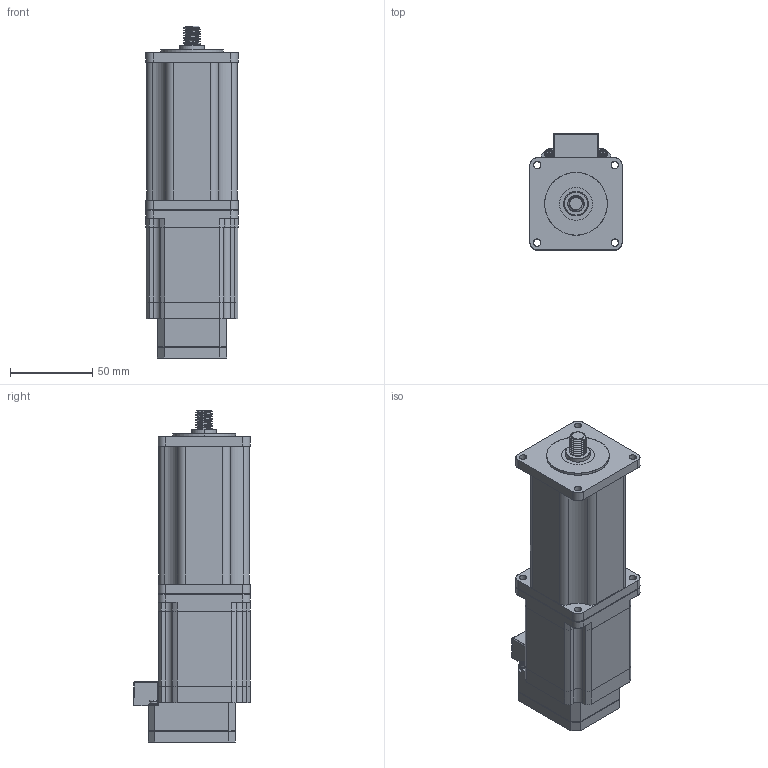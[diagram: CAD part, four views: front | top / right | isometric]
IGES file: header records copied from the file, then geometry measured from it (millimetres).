
Start section: SolidWorks IGES file using analytic representation for surfaces
Global section: file name: \\MYODRIVE\Public\CAD Files\Integrated-Actuators\Integrated-Captive-Screw-Actuators\NEMA23\CSR-23-2.00-CM1.IGS; native system: SolidWorks 2015; preprocessor: SolidWorks 2015; author: RENDER; date: 150126.152355; units: millimetre
Bounding box: 56 x 70.81 x 201.8 mm (x, y, z)
Surface area: 61907.1 mm2 (no closed solid volume)
Topology: 0 solids, 0 shells, 969 faces, 9552 edges, 9532 vertices
Faces by surface type: bspline 644, revolution 325
